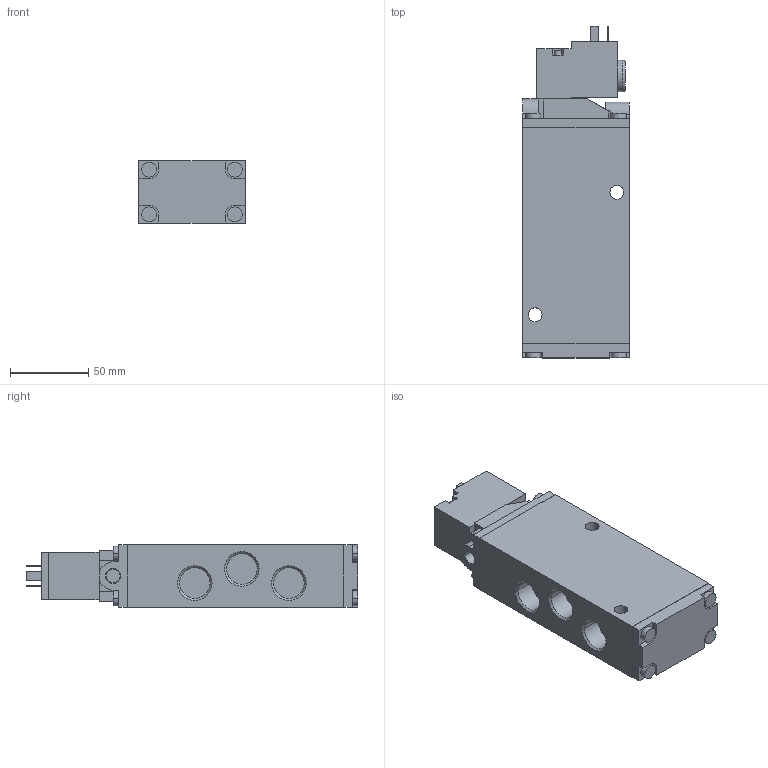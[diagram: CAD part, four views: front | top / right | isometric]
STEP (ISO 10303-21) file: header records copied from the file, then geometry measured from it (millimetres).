
FILE_DESCRIPTION((''),'2;1');
FILE_NAME('5725405280','2015-03-23T',('mla1hc'),(''),'PRO/ENGINEER BY PARAMETRIC TECHNOLOGY CORPORATION, 2011490','PRO/ENGINEER BY PARAMETRIC TECHNOLOGY CORPORATION, 2011490','');
FILE_SCHEMA(('AUTOMOTIVE_DESIGN_CC2 { 1 2 10303 214 -1 1 5 2 }'));
Length unit declared in the file: millimetre
Products named in the file (1): 5725405280
Bounding box: 68 x 211.5 x 40 mm (x, y, z)
Volume: 458911.5 mm3; surface area: 57937.4 mm2
Topology: 1 solids, 1 shells, 197 faces, 476 edges, 309 vertices
Faces by surface type: plane 119, cylinder 60, cone 16, torus 2
Entity records: 5755 total; most frequent: CARTESIAN_POINT 1005, DIRECTION 1001, ORIENTED_EDGE 952, EDGE_CURVE 476, AXIS2_PLACEMENT_3D 334, VECTOR 333, LINE 333, VERTEX_POINT 309
